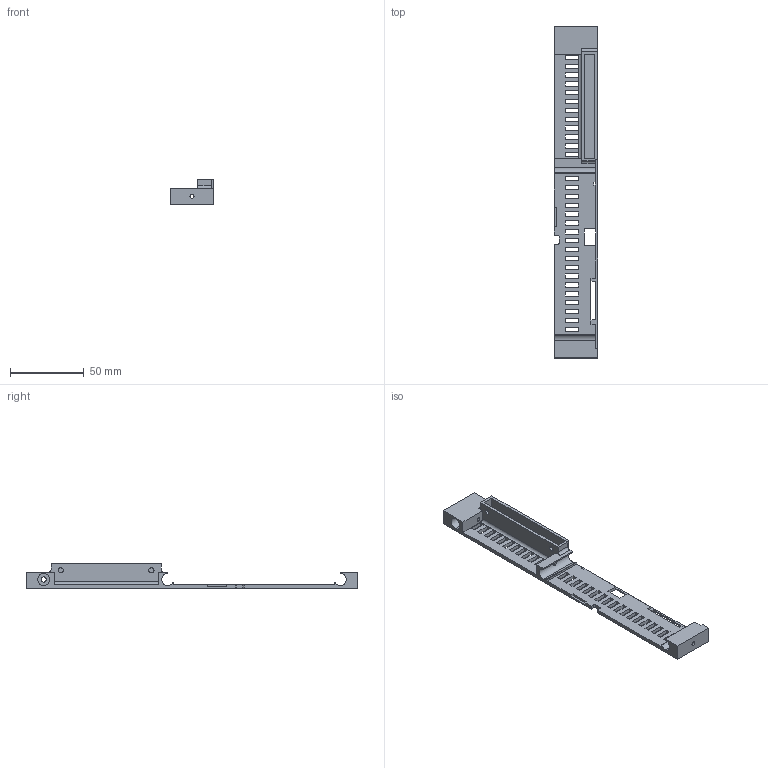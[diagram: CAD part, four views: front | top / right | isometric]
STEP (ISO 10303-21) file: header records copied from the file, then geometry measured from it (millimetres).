
FILE_DESCRIPTION (( 'STEP AP214' ), '1' );
FILE_NAME ('Jetson_node_front.STEP', '2015-02-27T01:46:34', ( '' ), ( '' ), '', '', '' );
FILE_SCHEMA (( '' ));
Length unit declared in the file: millimetre
Products named in the file (1): Jetson_node_front
Bounding box: 29.75 x 225 x 16.75 mm (x, y, z)
Volume: 24490.2 mm3; surface area: 22067.2 mm2
Topology: 1 solids, 1 shells, 202 faces, 601 edges, 400 vertices
Faces by surface type: plane 177, cylinder 25
Entity records: 7046 total; most frequent: CARTESIAN_POINT 1412, ORIENTED_EDGE 1202, DIRECTION 1041, EDGE_CURVE 601, VECTOR 551, LINE 551, VERTEX_POINT 400, EDGE_LOOP 281
